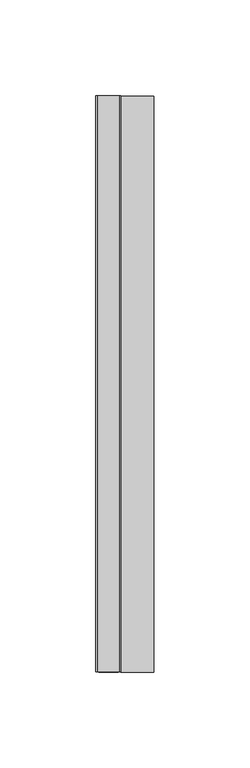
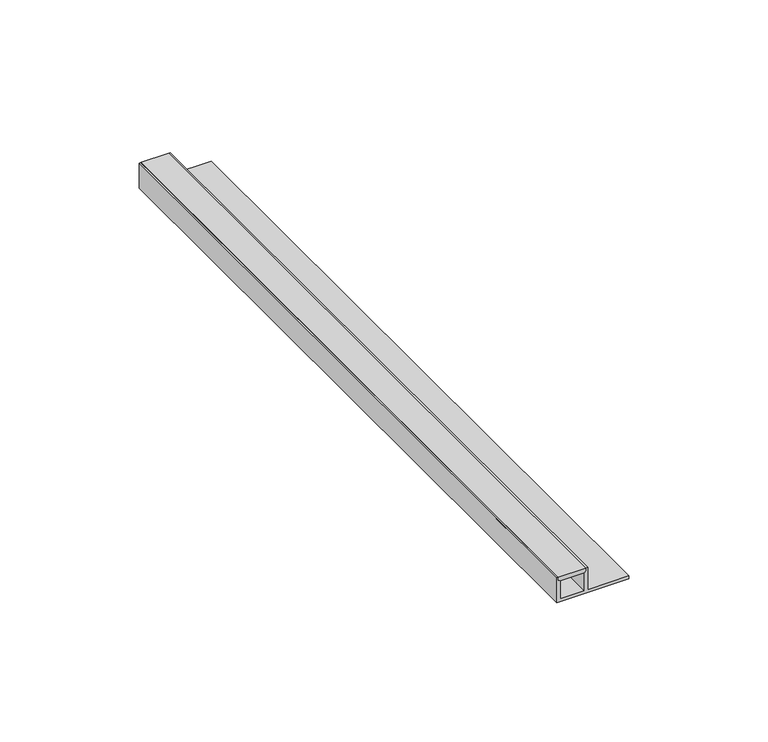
"""IFC4 building model written with IfcOpenShell, lengths in millimetres: proxy geometry, PORTOBELLO - METALLICA MET LUMI : LUMI CORNER 1,3X120."""

from ifc_helpers import new_model, si_unit, frame, origin, place, context, project, spatial, polyline, outline, extrude, source, transform, mapped, element, save


def generic_models_3e540e93(model_context):
    return source(origin(), model_context, "Body", "SweptSolid", [
        extrude(outline(polyline([(0.6476279, -5.7), (0.0, -5.0523721), (0.0, 5.0523721), (0.6476279, 5.7), (1.9199818, 5.7), (1.9199818, -5.7), (0.6476279, -5.7)])), frame((0.0, -600.0, 0.0), z_axis=(0.0, 1.0, 0.0), x_axis=(0.0, 0.0, 1.0)), (0.0, 0.0, 1.0), 300.0),
        extrude(outline(polyline([(-9.0740099, -6.5), (-9.0740099, 23.5), (-7.7961553, 23.5), (-7.7961553, 6.5), (1.9199818, 6.5), (1.9199818, 5.7), (0.6476279, 5.7), (0.0, 5.0523721), (-7.7961553, 5.0523721), (-7.7961553, -5.0523721), (0.0, -5.0523721), (0.6476279, -5.7), (1.9199818, -5.7), (1.9199818, -6.5), (-9.0740099, -6.5)])), frame((0.0, -600.0, 0.0), z_axis=(0.0, 1.0, 0.0), x_axis=(0.0, 0.0, 1.0)), (0.0, 0.0, 1.0), 300.0),
    ])


if __name__ == "__main__":
    model = new_model("IFC4")
    model_context = context("Model", 3, world=origin())
    ifc_project = project(units=[si_unit("LENGTHUNIT", "METRE", prefix="MILLI")], contexts=[model_context])
    site = spatial("IfcSite", under=ifc_project)
    building = spatial("IfcBuilding", under=site)
    placement = place(None, origin())
    generic_models_shape = generic_models_3e540e93(model_context)
    element("IfcBuildingElementProxy", 1, Name="PORTOBELLO - METALLICA MET LUMI : LUMI CORNER 1,3X120", ObjectType="PORTOBELLO - METALLICA MET LUMI : LUMI CORNER 1,3X120", at=placement, inside=building, context=model_context, shape_type="MappedRepresentation", body=[
        mapped(generic_models_shape, transform((0.0, 0.0, 0.0), x_axis=(1.0, 0.0, 0.0), y_axis=(0.0, 1.0, 0.0), z_axis=(0.0, 0.0, 1.0))),
    ])
    save(model, "model.ifc")
